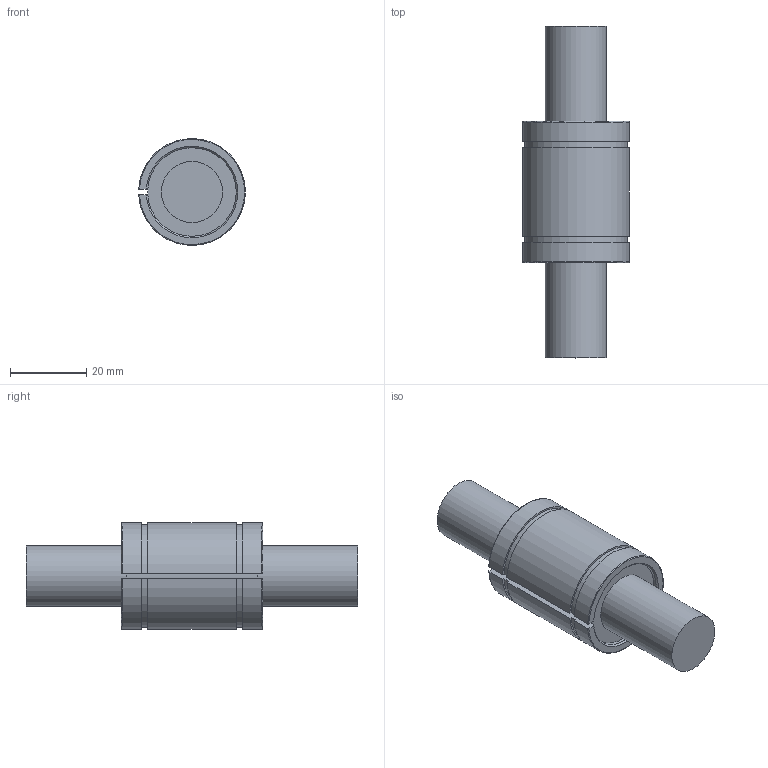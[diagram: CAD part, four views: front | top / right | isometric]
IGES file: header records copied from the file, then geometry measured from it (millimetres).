
Global section: file name: No Iges File Name specified; native system: Autodesk Inventor 2012; preprocessor: AutoDesk Inventor Iges Exporter R2012; author: user2; date: 20130206.101610; units: millimetre
Bounding box: 27.98 x 87 x 27.99 mm (x, y, z)
Volume: 31977.4 mm3; surface area: 7590.8 mm2
Topology: 1 solids, 1 shells, 26 faces, 64 edges, 42 vertices
Faces by surface type: plane 12, cylinder 8, revolution 4, torus 2
Full cylindrical faces by diameter (mm): 16 x2
